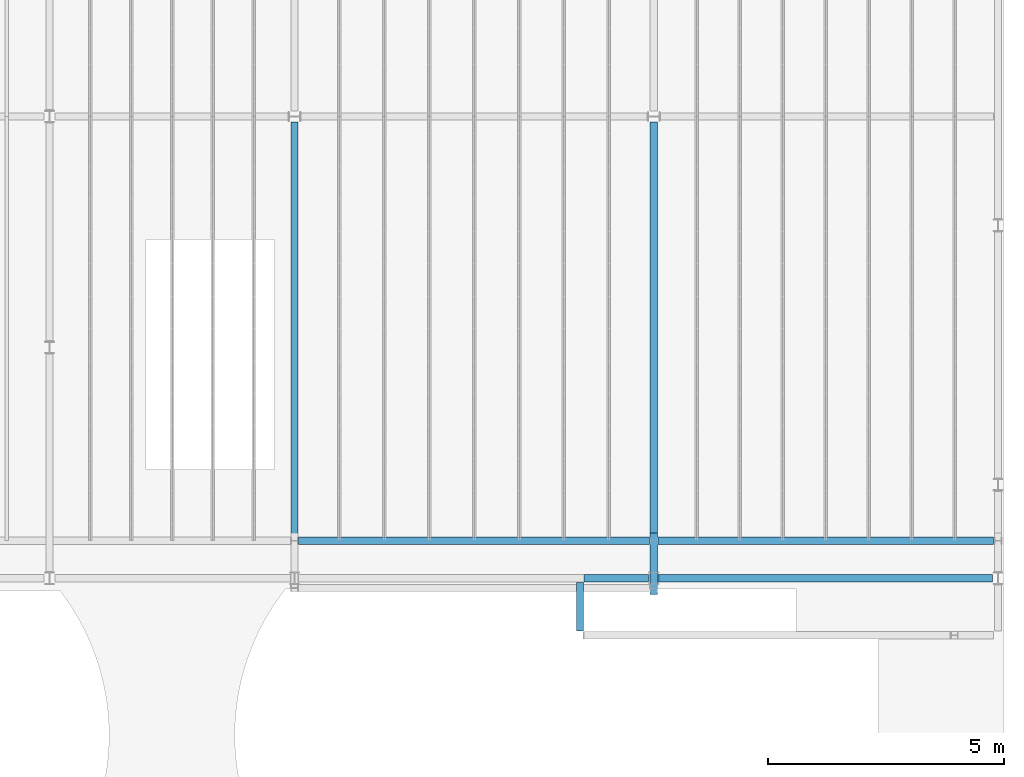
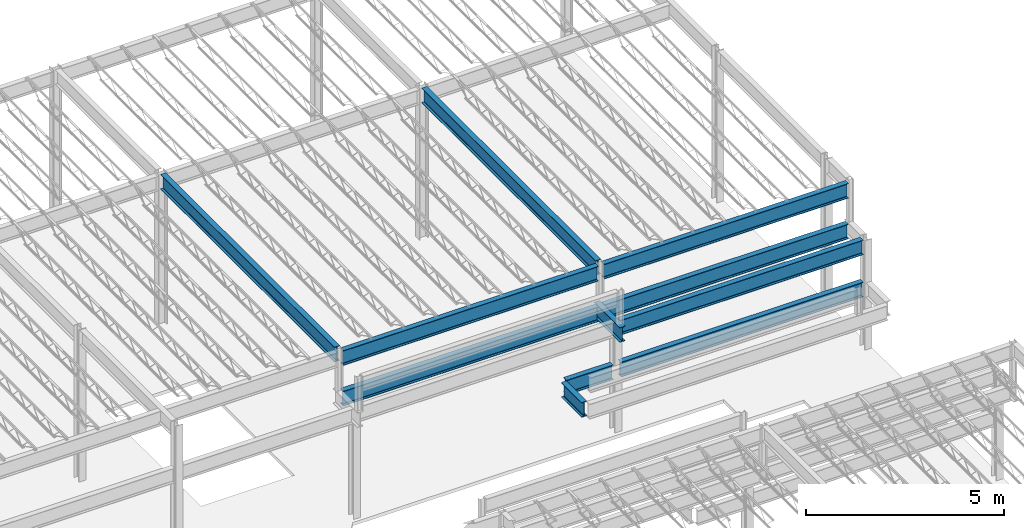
# One storey, part 15 of 119: 11 beams.
"""IFC2X3 building model written with IfcOpenShell, lengths in metres."""

import ifcopenshell
import ifcopenshell.guid

model = None  # the IFC model being written
_history = None  # IfcOwnerHistory: only IFC2X3 demands one
_inside = {}  # id of a spatial element -> (the spatial element, [elements in it])
_under = {}  # id of a project, library or spatial element -> (it, [spatial elements below it])
_declared = {}  # id of a project -> (the project, [libraries it declares])
_typed = {}  # id of a type object -> (the type object, [elements of that type])
_made_of = {}  # id of a material, layer set ... -> (it, [elements and type objects made of it])


def new_model(schema):
    """Start an empty IFC model of exactly this schema.

    Asked for "IFC4X3", IfcOpenShell would pick the latest addendum, in which some entities
    have other attributes; the version numbers below select the first issue.
    IFC2X3 requires an IfcOwnerHistory on every rooted entity: one is made here for all.
    """
    global model, _history
    if schema == "IFC4X3":
        model = ifcopenshell.file(schema_version=(4, 3, 0, 0))
    else:
        model = ifcopenshell.file(schema=schema)
    _inside.clear()
    _under.clear()
    _declared.clear()
    _typed.clear()
    _made_of.clear()
    _history = None
    if model.schema == "IFC2X3":
        org = make("IfcOrganization", Name="unknown")
        user = make(
            "IfcPersonAndOrganization",
            ThePerson=make("IfcPerson", FamilyName="unknown"),
            TheOrganization=org,
        )
        app = make(
            "IfcApplication",
            ApplicationDeveloper=org,
            Version="unknown",
            ApplicationFullName="unknown",
            ApplicationIdentifier="unknown",
        )
        _history = make(
            "IfcOwnerHistory",
            OwningUser=user,
            OwningApplication=app,
            ChangeAction="ADDED",
            CreationDate=0,
        )
    return model


def make(cls, **values):
    """One entity of the class cls with the attributes given. An attribute that is None is left unset."""
    return model.create_entity(
        cls, **{name: value for name, value in values.items() if value is not None}
    )


def entity(cls, *values):
    """Any entity or typed value of the class cls, its attributes in the order of the schema. None: left unset."""
    e = model.create_entity(cls)
    for i, value in enumerate(values):
        if value is not None:
            e[i] = value
    return e


def rooted(cls, **values):
    """An entity with a GlobalId (a new one), such as an element, a storey or a relation."""
    return make(cls, GlobalId=ifcopenshell.guid.new(), OwnerHistory=_history, **values)


def si_unit(unit_type, name, prefix=None):
    """IfcSIUnit, for example si_unit("LENGTHUNIT", "METRE", prefix="MILLI")."""
    return make("IfcSIUnit", UnitType=unit_type, Prefix=prefix, Name=name)


def converted_unit(unit_type, name, factor, base, dimensions=None, offset=None):
    """IfcConversionBasedUnit, such as the inch: factor (a typed value) times the base unit."""
    return make(
        "IfcConversionBasedUnit"
        if offset is None
        else "IfcConversionBasedUnitWithOffset",
        ConversionOffset=offset,
        Dimensions=None
        if dimensions is None
        else entity("IfcDimensionalExponents", *dimensions),
        UnitType=unit_type,
        Name=name,
        ConversionFactor=make(
            "IfcMeasureWithUnit", ValueComponent=factor, UnitComponent=base
        ),
    )


def assignment(units):
    """IfcUnitAssignment: the units of a project."""
    return None if units is None else make("IfcUnitAssignment", Units=units)


def point(xyz):
    """IfcCartesianPoint."""
    return None if xyz is None else make("IfcCartesianPoint", Coordinates=xyz)


def direction(xyz):
    """IfcDirection."""
    return None if xyz is None else make("IfcDirection", DirectionRatios=xyz)


def frame(location, z_axis=None, x_axis=None):
    """IfcAxis2Placement3D, a coordinate frame: its origin and axes. An axis left out is left unset."""
    return make(
        "IfcAxis2Placement3D",
        Location=point(location),
        Axis=direction(z_axis),
        RefDirection=direction(x_axis),
    )


def frame_2d(location, x_axis=None):
    """IfcAxis2Placement2D, a coordinate frame in the plane: its origin and x axis."""
    return make(
        "IfcAxis2Placement2D", Location=point(location), RefDirection=direction(x_axis)
    )


def origin():
    """The frame at (0, 0, 0) with its axes left unset."""
    return frame((0.0, 0.0, 0.0))


def place(relative_to, where):
    """IfcLocalPlacement: puts the frame where relative to a parent placement (None: the world)."""
    return make(
        "IfcLocalPlacement", PlacementRelTo=relative_to, RelativePlacement=where
    )


def context(
    kind, dimensions, precision=None, world=None, true_north=None, identifier=None
):
    """IfcGeometricRepresentationContext, for example the 3D "Model" context."""
    return make(
        "IfcGeometricRepresentationContext",
        ContextIdentifier=identifier,
        ContextType=kind,
        CoordinateSpaceDimension=dimensions,
        Precision=precision,
        WorldCoordinateSystem=world,
        TrueNorth=true_north,
    )


def project(units=None, contexts=None):
    """IfcProject with its units and contexts."""
    return rooted(
        "IfcProject",
        Name="project",
        RepresentationContexts=contexts,
        UnitsInContext=assignment(units),
    )


def spatial(cls, under=None, at=None, **own):
    """A site, building, storey or space (cls), placed at a placement, below another one or the project."""
    s = rooted(cls, ObjectPlacement=at, **own)
    if under is not None:
        _under.setdefault(under.id(), (under, []))[1].append(s)
    return s


def polyline(points):
    """IfcPolyline through the points."""
    return make("IfcPolyline", Points=[point(p) for p in points])


def circle_curve(where, radius):
    """IfcCircle in the frame where."""
    return make("IfcCircle", Position=where, Radius=radius)


def parameter(value):
    """IfcParameterValue: where a trimmed curve begins or ends, as a parameter of its basis curve."""
    return model.create_entity("IfcParameterValue", value)


def trimmed(basis, trim1, trim2, sense, master):
    """IfcTrimmedCurve: the piece of a basis curve between two trims."""
    return make(
        "IfcTrimmedCurve",
        BasisCurve=basis,
        Trim1=trim1,
        Trim2=trim2,
        SenseAgreement=sense,
        MasterRepresentation=master,
    )


def segment(curve, same_sense, transition):
    """IfcCompositeCurveSegment."""
    return make(
        "IfcCompositeCurveSegment",
        Transition=transition,
        SameSense=same_sense,
        ParentCurve=curve,
    )


def composite_curve(segments, self_intersect=None):
    """IfcCompositeCurve: segments joined end to end."""
    return make("IfcCompositeCurve", Segments=segments, SelfIntersect=self_intersect)


def outline(outer, holes=None, kind="AREA"):
    """IfcArbitraryClosedProfileDef: a profile drawn as a closed curve; with holes, ...WithVoids."""
    if holes is None:
        return make("IfcArbitraryClosedProfileDef", ProfileType=kind, OuterCurve=outer)
    return make(
        "IfcArbitraryProfileDefWithVoids",
        ProfileType=kind,
        OuterCurve=outer,
        InnerCurves=holes,
    )


def extrude(swept, where, along, depth):
    """IfcExtrudedAreaSolid: the profile swept, set in the frame where, extruded along a direction by depth."""
    return make(
        "IfcExtrudedAreaSolid",
        SweptArea=swept,
        Position=where,
        ExtrudedDirection=direction(along),
        Depth=depth,
    )


def shape(context_of_items, identifier, shape_type, items):
    """IfcShapeRepresentation: the items that make up one representation, for example the "Body"."""
    return make(
        "IfcShapeRepresentation",
        ContextOfItems=context_of_items,
        RepresentationIdentifier=identifier,
        RepresentationType=shape_type,
        Items=items,
    )


def material(Name=None, Category=None):
    """IfcMaterial."""
    return make("IfcMaterial", Name=Name, Category=Category)


def made_of(thing, what):
    """Note that an element or type object is made of a material, layer set ...; save() writes the relation."""
    if what is not None:
        _made_of.setdefault(what.id(), (what, []))[1].append(thing)
    return thing


def element(
    cls,
    number,
    at=None,
    inside=None,
    cuts=None,
    type_object=None,
    material=None,
    context=None,
    identifier="Body",
    shape_type=None,
    held_by="IfcProductDefinitionShape",
    body=None,
    shapes=None,
    **own,
):
    """One element of the class cls, such as IfcWall. Its Tag is "e" and its number.

    at: its placement. inside: the storey or other place that contains it. cuts: it is an
    opening in that element (IfcRelVoidsElement). A single representation is given by context,
    identifier, shape_type and body (its items); several are given by shapes. held_by: the class
    of the entity that holds the representations. save() writes the other relations.
    """
    e = rooted(cls, Tag="e%d" % number, ObjectPlacement=at, **own)
    if body is not None:
        shapes = [shape(context, identifier, shape_type, body)]
    if shapes is not None:
        e.Representation = make(held_by, Representations=shapes)
    if inside is not None:
        _inside.setdefault(inside.id(), (inside, []))[1].append(e)
    if cuts is not None:
        rooted(
            "IfcRelVoidsElement", RelatingBuildingElement=cuts, RelatedOpeningElement=e
        )
    if type_object is not None:
        _typed.setdefault(type_object.id(), (type_object, []))[1].append(e)
    return made_of(e, material)


def aggregate(whole, parts):
    """IfcRelAggregates: a whole, such as a stair, and the parts it consists of."""
    return rooted("IfcRelAggregates", RelatingObject=whole, RelatedObjects=parts)


def save(model, path):
    """Write the relations noted so far, then the file.

    IfcRelAggregates (storeys below a building ...), IfcRelContainedInSpatialStructure (elements
    in a storey), IfcRelDefinesByType, IfcRelAssociatesMaterial and IfcRelDeclares: one each for
    every whole, place, type object, material and project.
    """
    for whole, parts in _under.values():
        aggregate(whole, parts)
    for where, things in _inside.values():
        rooted(
            "IfcRelContainedInSpatialStructure",
            RelatedElements=things,
            RelatingStructure=where,
        )
    for kind, things in _typed.values():
        rooted("IfcRelDefinesByType", RelatedObjects=things, RelatingType=kind)
    for what, things in _made_of.values():
        rooted("IfcRelAssociatesMaterial", RelatedObjects=things, RelatingMaterial=what)
    for by, libraries in _declared.values():
        rooted("IfcRelDeclares", RelatingContext=by, RelatedDefinitions=libraries)
    model.write(path)


model = new_model("IFC2X3")

# Units and contexts
model_context = context("Model", 3, precision=1e-09, world=origin())
plan_context = context("Plan", 3, precision=1e-09, world=origin())
ifc_project = project(units=[si_unit("LENGTHUNIT", "METRE"), si_unit("AREAUNIT", "SQUARE_METRE"), si_unit("VOLUMEUNIT", "CUBIC_METRE"), converted_unit("PLANEANGLEUNIT", "DEGREE", entity("IfcRatioMeasure", 0.01745329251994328), si_unit("PLANEANGLEUNIT", "RADIAN"), dimensions=[0, 0, 0, 0, 0, 0, 0]), si_unit("TIMEUNIT", "SECOND")], contexts=[model_context, plan_context])

# Site, building, storey
site_placement = place(None, origin())
site = spatial("IfcSite", under=ifc_project, at=site_placement, Name="Default", CompositionType="ELEMENT")
building_placement = place(site_placement, origin())
building = spatial("IfcBuilding", under=site, at=building_placement, CompositionType="ELEMENT")
storey_placement = place(building_placement, frame((0.0, 0.0, 4.570000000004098)))
storey = spatial("IfcBuildingStorey", under=building, at=storey_placement, Name="Second Floor", CompositionType="ELEMENT", Elevation=4.570000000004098)

# Beams
ifc_material = material(Name="Metal - Steel - 345 MPa")
beam_1_placement = place(storey_placement, frame((-7.272954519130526, 35.00999999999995, 2.071499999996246), z_axis=(0.0, 0.0, 1.0), x_axis=(0.0, -1.0, 0.0)))
element("IfcBeam", 1, at=beam_1_placement, inside=storey, material=ifc_material, Name="M_W-Wide Flange:W460X60:W460X60", ObjectType="M_W-Wide Flange:W460X60", context=model_context, shape_type="SweptSolid", body=[
    extrude(outline(composite_curve([segment(polyline([(-0.07649999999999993, -0.214199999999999), (-0.07649999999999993, -0.2275000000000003)]), True, "CONTINUOUS"), segment(polyline([(-0.07649999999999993, -0.2275000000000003), (0.07649999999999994, -0.2275000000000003)]), True, "CONTINUOUS"), segment(polyline([(0.07649999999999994, -0.2275000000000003), (0.07649999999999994, -0.214199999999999)]), True, "CONTINUOUS"), segment(polyline([(0.07649999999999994, -0.214199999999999), (0.0216999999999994, -0.214199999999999)]), True, "CONTINUOUS"), segment(trimmed(circle_curve(frame_2d((0.02169999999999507, -0.1964999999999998), x_axis=(1.0, 0.0)), 0.0177), [parameter(180.0)], [parameter(269.9999999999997)], True, "PARAMETER"), False, "CONTINUOUS"), segment(polyline([(0.00399999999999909, -0.1964999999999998), (0.00399999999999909, 0.1965000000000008)]), True, "CONTINUOUS"), segment(trimmed(circle_curve(frame_2d((0.02169999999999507, 0.1965000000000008), x_axis=(1.0, 0.0)), 0.0177), [parameter(90.00000000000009)], [parameter(179.9999999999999)], True, "PARAMETER"), False, "CONTINUOUS"), segment(polyline([(0.0216999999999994, 0.2142000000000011), (0.07649999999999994, 0.2142000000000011)]), True, "CONTINUOUS"), segment(polyline([(0.07649999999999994, 0.2142000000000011), (0.07649999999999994, 0.2275000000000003)]), True, "CONTINUOUS"), segment(polyline([(0.07649999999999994, 0.2275000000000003), (-0.07649999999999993, 0.2275000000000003)]), True, "CONTINUOUS"), segment(polyline([(-0.07649999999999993, 0.2275000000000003), (-0.07649999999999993, 0.2142000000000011)]), True, "CONTINUOUS"), segment(polyline([(-0.07649999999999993, 0.2142000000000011), (-0.0216999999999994, 0.2142000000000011)]), True, "CONTINUOUS"), segment(trimmed(circle_curve(frame_2d((-0.02170000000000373, 0.1965000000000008), x_axis=(1.0, 0.0)), 0.0177), [parameter(359.9999999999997)], [parameter(89.99999999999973)], True, "PARAMETER"), False, "CONTINUOUS"), segment(polyline([(-0.003999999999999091, 0.1965000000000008), (-0.003999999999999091, -0.1964999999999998)]), True, "CONTINUOUS"), segment(trimmed(circle_curve(frame_2d((-0.02170000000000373, -0.1964999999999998), x_axis=(1.0, 0.0)), 0.0177), [parameter(269.9999999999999)], [parameter(0.0)], True, "PARAMETER"), False, "CONTINUOUS"), segment(polyline([(-0.0216999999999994, -0.214199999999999), (-0.07649999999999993, -0.214199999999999)]), True, "CONTINUOUS")], self_intersect=False)), frame((0.0, 0.1076545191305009, -0.2275000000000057), z_axis=(0.0, -1.0, 0.0), x_axis=(1.0, 0.0, 0.0)), (0.0, 0.0, -1.0), 7.050599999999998),
])
beam_2_placement = place(storey_placement, frame((-8.840191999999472, 35.9378395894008, 2.0715)))
element("IfcBeam", 2, at=beam_2_placement, inside=storey, material=ifc_material, Name="M_W-Wide Flange:W460X60:W460X60", ObjectType="M_W-Wide Flange:W460X60", context=model_context, shape_type="SweptSolid", body=[
    extrude(outline(composite_curve([segment(polyline([(0.214199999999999, -0.07649999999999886), (0.2275000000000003, -0.07649999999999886)]), True, "CONTINUOUS"), segment(polyline([(0.2275000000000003, -0.07649999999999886), (0.2275000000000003, 0.0765000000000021)]), True, "CONTINUOUS"), segment(polyline([(0.2275000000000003, 0.0765000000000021), (0.214199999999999, 0.0765000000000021)]), True, "CONTINUOUS"), segment(polyline([(0.214199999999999, 0.0765000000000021), (0.214199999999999, 0.02170000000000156)]), True, "CONTINUOUS"), segment(trimmed(circle_curve(frame_2d((0.1964999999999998, 0.02170000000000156), x_axis=(0.0, 1.0)), 0.0177), [parameter(180.0)], [parameter(269.9999999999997)], True, "PARAMETER"), False, "CONTINUOUS"), segment(polyline([(0.1964999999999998, 0.004000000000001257), (-0.1965000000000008, 0.004000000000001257)]), True, "CONTINUOUS"), segment(trimmed(circle_curve(frame_2d((-0.1965000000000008, 0.02170000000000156), x_axis=(0.0, 1.0)), 0.0177), [parameter(90.00000000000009)], [parameter(179.9999999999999)], True, "PARAMETER"), False, "CONTINUOUS"), segment(polyline([(-0.2142000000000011, 0.02170000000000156), (-0.2142000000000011, 0.0765000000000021)]), True, "CONTINUOUS"), segment(polyline([(-0.2142000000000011, 0.0765000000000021), (-0.2275000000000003, 0.0765000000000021)]), True, "CONTINUOUS"), segment(polyline([(-0.2275000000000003, 0.0765000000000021), (-0.2275000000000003, -0.07649999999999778)]), True, "CONTINUOUS"), segment(polyline([(-0.2275000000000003, -0.07649999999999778), (-0.2142000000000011, -0.07649999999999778)]), True, "CONTINUOUS"), segment(polyline([(-0.2142000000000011, -0.07649999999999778), (-0.2142000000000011, -0.02169999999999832)]), True, "CONTINUOUS"), segment(trimmed(circle_curve(frame_2d((-0.1965000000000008, -0.02169999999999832), x_axis=(0.0, 1.0)), 0.0177), [parameter(359.9999999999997)], [parameter(89.99999999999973)], True, "PARAMETER"), False, "CONTINUOUS"), segment(polyline([(-0.1965000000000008, -0.003999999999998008), (0.1964999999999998, -0.003999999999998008)]), True, "CONTINUOUS"), segment(trimmed(circle_curve(frame_2d((0.1964999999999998, -0.02169999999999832), x_axis=(0.0, 1.0)), 0.0177), [parameter(269.9999999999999)], [parameter(0.0)], True, "PARAMETER"), False, "CONTINUOUS"), segment(polyline([(0.214199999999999, -0.02169999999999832), (0.214199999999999, -0.07649999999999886)]), True, "CONTINUOUS")], self_intersect=False)), frame((0.0, -2.044140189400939, -0.2275000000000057), z_axis=(0.0, 1.0, 0.0), x_axis=(0.0, 0.0, -1.0)), (0.0, 0.0, 1.0), 1.0276005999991),
])
beam_3_placement = place(storey_placement, frame((-14.87997499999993, 44.77806591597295, 4.679999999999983), z_axis=(0.0, 0.0, 1.0), x_axis=(-1.0, 0.0, 0.0)))
element("IfcBeam", 3, at=beam_3_placement, inside=storey, material=ifc_material, Name="M_W-Wide Flange:W460X60:W460X60", ObjectType="M_W-Wide Flange:W460X60", context=model_context, shape_type="SweptSolid", body=[
    extrude(outline(composite_curve([segment(polyline([(0.2142000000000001, -0.07649999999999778), (0.2275000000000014, -0.07649999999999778)]), True, "CONTINUOUS"), segment(polyline([(0.2275000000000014, -0.07649999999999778), (0.2275000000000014, 0.0765000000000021)]), True, "CONTINUOUS"), segment(polyline([(0.2275000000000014, 0.0765000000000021), (0.2142000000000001, 0.0765000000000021)]), True, "CONTINUOUS"), segment(polyline([(0.2142000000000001, 0.0765000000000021), (0.2142000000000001, 0.02170000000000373)]), True, "CONTINUOUS"), segment(trimmed(circle_curve(frame_2d((0.1965000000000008, 0.02170000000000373), x_axis=(0.0, 1.0)), 0.0177), [parameter(180.0)], [parameter(269.9999999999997)], True, "PARAMETER"), False, "CONTINUOUS"), segment(polyline([(0.1965000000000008, 0.004000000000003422), (-0.1964999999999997, 0.004000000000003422)]), True, "CONTINUOUS"), segment(trimmed(circle_curve(frame_2d((-0.1964999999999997, 0.02170000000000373), x_axis=(0.0, 1.0)), 0.0177), [parameter(90.00000000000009)], [parameter(179.9999999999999)], True, "PARAMETER"), False, "CONTINUOUS"), segment(polyline([(-0.2142, 0.02170000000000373), (-0.2142, 0.0765000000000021)]), True, "CONTINUOUS"), segment(polyline([(-0.2142, 0.0765000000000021), (-0.2274999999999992, 0.0765000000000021)]), True, "CONTINUOUS"), segment(polyline([(-0.2274999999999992, 0.0765000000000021), (-0.2274999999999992, -0.07649999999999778)]), True, "CONTINUOUS"), segment(polyline([(-0.2274999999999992, -0.07649999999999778), (-0.2142, -0.07649999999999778)]), True, "CONTINUOUS"), segment(polyline([(-0.2142, -0.07649999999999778), (-0.2142, -0.02169999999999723)]), True, "CONTINUOUS"), segment(trimmed(circle_curve(frame_2d((-0.1964999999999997, -0.02169999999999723), x_axis=(0.0, 1.0)), 0.0177), [parameter(359.9999999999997)], [parameter(89.99999999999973)], True, "PARAMETER"), False, "CONTINUOUS"), segment(polyline([(-0.1964999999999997, -0.003999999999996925), (0.1965000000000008, -0.003999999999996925)]), True, "CONTINUOUS"), segment(trimmed(circle_curve(frame_2d((0.1965000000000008, -0.02169999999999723), x_axis=(0.0, 1.0)), 0.0177), [parameter(269.9999999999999)], [parameter(0.0)], True, "PARAMETER"), False, "CONTINUOUS"), segment(polyline([(0.2142000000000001, -0.02169999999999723), (0.2142000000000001, -0.07649999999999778)]), True, "CONTINUOUS")], self_intersect=False)), frame((0.0, 8.884365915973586, -0.2275000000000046), z_axis=(0.0, -1.0, 0.0), x_axis=(0.0, 0.0, -1.0)), (0.0, 0.0, 1.0), 8.771600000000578),
])
beam_4_placement = place(storey_placement, frame((-7.280000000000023, 35.01193408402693, 4.680000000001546)))
element("IfcBeam", 4, at=beam_4_placement, inside=storey, material=ifc_material, Name="M_W-Wide Flange:W460X60:W460X60", ObjectType="M_W-Wide Flange:W460X60", context=model_context, shape_type="SweptSolid", body=[
    extrude(outline(composite_curve([segment(polyline([(-0.07649999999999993, -0.214199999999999), (-0.07649999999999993, -0.2275000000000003)]), True, "CONTINUOUS"), segment(polyline([(-0.07649999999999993, -0.2275000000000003), (0.07650000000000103, -0.2275000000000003)]), True, "CONTINUOUS"), segment(polyline([(0.07650000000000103, -0.2275000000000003), (0.07650000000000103, -0.214199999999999)]), True, "CONTINUOUS"), segment(polyline([(0.07650000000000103, -0.214199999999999), (0.02170000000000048, -0.214199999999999)]), True, "CONTINUOUS"), segment(trimmed(circle_curve(frame_2d((0.0216999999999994, -0.1964999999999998), x_axis=(1.0, 0.0)), 0.0177), [parameter(180.0)], [parameter(269.9999999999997)], True, "PARAMETER"), False, "CONTINUOUS"), segment(polyline([(0.004000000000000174, -0.1964999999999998), (0.004000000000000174, 0.1965000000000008)]), True, "CONTINUOUS"), segment(trimmed(circle_curve(frame_2d((0.0216999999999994, 0.1965000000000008), x_axis=(1.0, 0.0)), 0.0177), [parameter(90.00000000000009)], [parameter(179.9999999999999)], True, "PARAMETER"), False, "CONTINUOUS"), segment(polyline([(0.02170000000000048, 0.2142000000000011), (0.07650000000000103, 0.2142000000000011)]), True, "CONTINUOUS"), segment(polyline([(0.07650000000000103, 0.2142000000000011), (0.07650000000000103, 0.2275000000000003)]), True, "CONTINUOUS"), segment(polyline([(0.07650000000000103, 0.2275000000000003), (-0.07649999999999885, 0.2275000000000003)]), True, "CONTINUOUS"), segment(polyline([(-0.07649999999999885, 0.2275000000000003), (-0.07649999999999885, 0.2142000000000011)]), True, "CONTINUOUS"), segment(polyline([(-0.07649999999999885, 0.2142000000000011), (-0.0216999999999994, 0.2142000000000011)]), True, "CONTINUOUS"), segment(trimmed(circle_curve(frame_2d((-0.02170000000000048, 0.1965000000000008), x_axis=(1.0, 0.0)), 0.0177), [parameter(359.9999999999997)], [parameter(89.99999999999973)], True, "PARAMETER"), False, "CONTINUOUS"), segment(polyline([(-0.00399999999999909, 0.1965000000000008), (-0.00399999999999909, -0.1964999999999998)]), True, "CONTINUOUS"), segment(trimmed(circle_curve(frame_2d((-0.02170000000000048, -0.1964999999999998), x_axis=(1.0, 0.0)), 0.0177), [parameter(269.9999999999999)], [parameter(0.0)], True, "PARAMETER"), False, "CONTINUOUS"), segment(polyline([(-0.0216999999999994, -0.214199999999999), (-0.07649999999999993, -0.214199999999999)]), True, "CONTINUOUS")], self_intersect=False)), frame((0.0, 0.8817659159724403, -0.2275000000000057), z_axis=(0.0, -1.0, 0.0), x_axis=(1.0, 0.0, 0.0)), (0.0, 0.0, -1.0), 8.771600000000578),
])
beam_5_placement = place(storey_placement, frame((-7.277404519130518, 35.8049999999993, 3.366499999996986), z_axis=(0.0, 0.0, 1.0), x_axis=(0.0, -1.0, 0.0)))
element("IfcBeam", 5, at=beam_5_placement, inside=storey, material=ifc_material, Name="M_W-Wide Flange:W460X60:W460X60", ObjectType="M_W-Wide Flange:W460X60", context=model_context, shape_type="SweptSolid", body=[
    extrude(outline(composite_curve([segment(polyline([(-0.07650000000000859, -0.2142000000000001), (-0.07650000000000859, -0.2275000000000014)]), True, "CONTINUOUS"), segment(polyline([(-0.07650000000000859, -0.2275000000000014), (0.07649999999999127, -0.2275000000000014)]), True, "CONTINUOUS"), segment(polyline([(0.07649999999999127, -0.2275000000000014), (0.07649999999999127, -0.2142000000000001)]), True, "CONTINUOUS"), segment(polyline([(0.07649999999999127, -0.2142000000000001), (0.02169999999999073, -0.2142000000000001)]), True, "CONTINUOUS"), segment(trimmed(circle_curve(frame_2d((0.02169999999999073, -0.1965000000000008), x_axis=(1.0, 0.0)), 0.0177), [parameter(180.0)], [parameter(269.9999999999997)], True, "PARAMETER"), False, "CONTINUOUS"), segment(polyline([(0.003999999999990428, -0.1965000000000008), (0.003999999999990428, 0.1964999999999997)]), True, "CONTINUOUS"), segment(trimmed(circle_curve(frame_2d((0.02169999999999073, 0.1964999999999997), x_axis=(1.0, 0.0)), 0.0177), [parameter(90.00000000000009)], [parameter(179.9999999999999)], True, "PARAMETER"), False, "CONTINUOUS"), segment(polyline([(0.02169999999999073, 0.2142), (0.07649999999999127, 0.2142)]), True, "CONTINUOUS"), segment(polyline([(0.07649999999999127, 0.2142), (0.07649999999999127, 0.2274999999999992)]), True, "CONTINUOUS"), segment(polyline([(0.07649999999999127, 0.2274999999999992), (-0.07650000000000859, 0.2274999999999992)]), True, "CONTINUOUS"), segment(polyline([(-0.07650000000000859, 0.2274999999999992), (-0.07650000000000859, 0.2142)]), True, "CONTINUOUS"), segment(polyline([(-0.07650000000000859, 0.2142), (-0.02170000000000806, 0.2142)]), True, "CONTINUOUS"), segment(trimmed(circle_curve(frame_2d((-0.02170000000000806, 0.1964999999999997), x_axis=(1.0, 0.0)), 0.0177), [parameter(359.9999999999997)], [parameter(89.99999999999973)], True, "PARAMETER"), False, "CONTINUOUS"), segment(polyline([(-0.004000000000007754, 0.1964999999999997), (-0.004000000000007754, -0.1965000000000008)]), True, "CONTINUOUS"), segment(trimmed(circle_curve(frame_2d((-0.02170000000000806, -0.1965000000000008), x_axis=(1.0, 0.0)), 0.0177), [parameter(269.9999999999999)], [parameter(0.0)], True, "PARAMETER"), False, "CONTINUOUS"), segment(polyline([(-0.02170000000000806, -0.2142000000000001), (-0.07650000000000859, -0.2142000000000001)]), True, "CONTINUOUS")], self_intersect=False)), frame((0.0, -7.513360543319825, -0.2275000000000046), z_axis=(0.0, -1.0, 0.0), x_axis=(1.0, 0.0, 0.0)), (0.0, 0.0, -1.0), 7.42206506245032),
])
beam_6_placement = place(storey_placement, frame((-7.277337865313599, 35.80499999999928, 4.616499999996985), z_axis=(0.0, 0.0, 1.0), x_axis=(0.0, -1.0, 0.0)))
element("IfcBeam", 6, at=beam_6_placement, inside=storey, material=ifc_material, Name="M_W-Wide Flange:W460X60:W460X60", ObjectType="M_W-Wide Flange:W460X60", context=model_context, shape_type="SweptSolid", body=[
    extrude(outline(composite_curve([segment(polyline([(-0.07649999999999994, -0.2142000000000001), (-0.07649999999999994, -0.2275000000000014)]), True, "CONTINUOUS"), segment(polyline([(-0.07649999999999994, -0.2275000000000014), (0.07649999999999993, -0.2275000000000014)]), True, "CONTINUOUS"), segment(polyline([(0.07649999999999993, -0.2275000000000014), (0.07649999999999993, -0.2142000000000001)]), True, "CONTINUOUS"), segment(polyline([(0.07649999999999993, -0.2142000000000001), (0.0216999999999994, -0.2142000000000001)]), True, "CONTINUOUS"), segment(trimmed(circle_curve(frame_2d((0.02170000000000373, -0.1965000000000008), x_axis=(1.0, 0.0)), 0.0177), [parameter(180.0)], [parameter(269.9999999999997)], True, "PARAMETER"), False, "CONTINUOUS"), segment(polyline([(0.003999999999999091, -0.1965000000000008), (0.003999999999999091, 0.1964999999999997)]), True, "CONTINUOUS"), segment(trimmed(circle_curve(frame_2d((0.02170000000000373, 0.1964999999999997), x_axis=(1.0, 0.0)), 0.0177), [parameter(90.00000000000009)], [parameter(179.9999999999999)], True, "PARAMETER"), False, "CONTINUOUS"), segment(polyline([(0.0216999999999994, 0.2142), (0.07649999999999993, 0.2142)]), True, "CONTINUOUS"), segment(polyline([(0.07649999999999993, 0.2142), (0.07649999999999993, 0.2274999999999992)]), True, "CONTINUOUS"), segment(polyline([(0.07649999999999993, 0.2274999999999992), (-0.07649999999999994, 0.2274999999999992)]), True, "CONTINUOUS"), segment(polyline([(-0.07649999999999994, 0.2274999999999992), (-0.07649999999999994, 0.2142)]), True, "CONTINUOUS"), segment(polyline([(-0.07649999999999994, 0.2142), (-0.0216999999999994, 0.2142)]), True, "CONTINUOUS"), segment(trimmed(circle_curve(frame_2d((-0.02169999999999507, 0.1964999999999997), x_axis=(1.0, 0.0)), 0.0177), [parameter(359.9999999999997)], [parameter(89.99999999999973)], True, "PARAMETER"), False, "CONTINUOUS"), segment(polyline([(-0.00399999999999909, 0.1964999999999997), (-0.00399999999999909, -0.1965000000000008)]), True, "CONTINUOUS"), segment(trimmed(circle_curve(frame_2d((-0.02169999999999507, -0.1965000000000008), x_axis=(1.0, 0.0)), 0.0177), [parameter(269.9999999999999)], [parameter(0.0)], True, "PARAMETER"), False, "CONTINUOUS"), segment(polyline([(-0.0216999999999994, -0.2142000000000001), (-0.07649999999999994, -0.2142000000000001)]), True, "CONTINUOUS")], self_intersect=False)), frame((0.0, -7.513937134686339, -0.2275000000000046), z_axis=(0.0, -1.0, 0.0), x_axis=(1.0, 0.0, 0.0)), (0.0, 0.0, -1.0), 7.422574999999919),
])
beam_7_placement = place(storey_placement, frame((-7.277404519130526, 35.00999999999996, 3.366499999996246), z_axis=(0.0, 0.0, 1.0), x_axis=(0.0, -1.0, 0.0)))
element("IfcBeam", 7, at=beam_7_placement, inside=storey, material=ifc_material, Name="M_W-Wide Flange:W460X60:W460X60", ObjectType="M_W-Wide Flange:W460X60", context=model_context, shape_type="SweptSolid", body=[
    extrude(outline(composite_curve([segment(polyline([(-0.07649999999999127, -0.2142000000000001), (-0.07649999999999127, -0.2275000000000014)]), True, "CONTINUOUS"), segment(polyline([(-0.07649999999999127, -0.2275000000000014), (0.07650000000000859, -0.2275000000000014)]), True, "CONTINUOUS"), segment(polyline([(0.07650000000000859, -0.2275000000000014), (0.07650000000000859, -0.2142000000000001)]), True, "CONTINUOUS"), segment(polyline([(0.07650000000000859, -0.2142000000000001), (0.02170000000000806, -0.2142000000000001)]), True, "CONTINUOUS"), segment(trimmed(circle_curve(frame_2d((0.02170000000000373, -0.1965000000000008), x_axis=(1.0, 0.0)), 0.0177), [parameter(180.0)], [parameter(269.9999999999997)], True, "PARAMETER"), False, "CONTINUOUS"), segment(polyline([(0.004000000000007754, -0.1965000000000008), (0.004000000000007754, 0.1964999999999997)]), True, "CONTINUOUS"), segment(trimmed(circle_curve(frame_2d((0.02170000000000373, 0.1964999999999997), x_axis=(1.0, 0.0)), 0.0177), [parameter(90.00000000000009)], [parameter(179.9999999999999)], True, "PARAMETER"), False, "CONTINUOUS"), segment(polyline([(0.02170000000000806, 0.2142), (0.07650000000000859, 0.2142)]), True, "CONTINUOUS"), segment(polyline([(0.07650000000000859, 0.2142), (0.07650000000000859, 0.2274999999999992)]), True, "CONTINUOUS"), segment(polyline([(0.07650000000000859, 0.2274999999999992), (-0.07649999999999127, 0.2274999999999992)]), True, "CONTINUOUS"), segment(polyline([(-0.07649999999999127, 0.2274999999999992), (-0.07649999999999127, 0.2142)]), True, "CONTINUOUS"), segment(polyline([(-0.07649999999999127, 0.2142), (-0.02169999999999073, 0.2142)]), True, "CONTINUOUS"), segment(trimmed(circle_curve(frame_2d((-0.02169999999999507, 0.1964999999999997), x_axis=(1.0, 0.0)), 0.0177), [parameter(359.9999999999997)], [parameter(89.99999999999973)], True, "PARAMETER"), False, "CONTINUOUS"), segment(polyline([(-0.003999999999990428, 0.1964999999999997), (-0.003999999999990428, -0.1965000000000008)]), True, "CONTINUOUS"), segment(trimmed(circle_curve(frame_2d((-0.02169999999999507, -0.1965000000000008), x_axis=(1.0, 0.0)), 0.0177), [parameter(269.9999999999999)], [parameter(0.0)], True, "PARAMETER"), False, "CONTINUOUS"), segment(polyline([(-0.02169999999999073, -0.2142000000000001), (-0.07649999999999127, -0.2142000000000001)]), True, "CONTINUOUS")], self_intersect=False)), frame((0.0, 0.08661445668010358, -0.2275000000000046), z_axis=(0.0, -1.0, 0.0), x_axis=(1.0, 0.0, 0.0)), (0.0, 0.0, -1.0), 7.076090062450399),
])
beam_8_placement = place(storey_placement, frame((-7.277404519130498, 35.80499999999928, 4.616499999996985), z_axis=(0.0, 0.0, 1.0), x_axis=(0.0, -1.0, 0.0)))
element("IfcBeam", 8, at=beam_8_placement, inside=storey, material=ifc_material, Name="M_W-Wide Flange:W460X60:W460X60", ObjectType="M_W-Wide Flange:W460X60", context=model_context, shape_type="SweptSolid", body=[
    extrude(outline(composite_curve([segment(polyline([(-0.0764999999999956, -0.2142000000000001), (-0.0764999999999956, -0.2275000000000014)]), True, "CONTINUOUS"), segment(polyline([(-0.0764999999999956, -0.2275000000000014), (0.07650000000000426, -0.2275000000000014)]), True, "CONTINUOUS"), segment(polyline([(0.07650000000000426, -0.2275000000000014), (0.07650000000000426, -0.2142000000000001)]), True, "CONTINUOUS"), segment(polyline([(0.07650000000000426, -0.2142000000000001), (0.02170000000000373, -0.2142000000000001)]), True, "CONTINUOUS"), segment(trimmed(circle_curve(frame_2d((0.02170000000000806, -0.1965000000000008), x_axis=(1.0, 0.0)), 0.0177), [parameter(180.0)], [parameter(269.9999999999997)], True, "PARAMETER"), False, "CONTINUOUS"), segment(polyline([(0.004000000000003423, -0.1965000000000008), (0.004000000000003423, 0.1964999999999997)]), True, "CONTINUOUS"), segment(trimmed(circle_curve(frame_2d((0.02170000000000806, 0.1964999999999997), x_axis=(1.0, 0.0)), 0.0177), [parameter(90.00000000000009)], [parameter(179.9999999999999)], True, "PARAMETER"), False, "CONTINUOUS"), segment(polyline([(0.02170000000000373, 0.2142), (0.07650000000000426, 0.2142)]), True, "CONTINUOUS"), segment(polyline([(0.07650000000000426, 0.2142), (0.07650000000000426, 0.2274999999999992)]), True, "CONTINUOUS"), segment(polyline([(0.07650000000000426, 0.2274999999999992), (-0.0764999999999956, 0.2274999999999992)]), True, "CONTINUOUS"), segment(polyline([(-0.0764999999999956, 0.2274999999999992), (-0.0764999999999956, 0.2142)]), True, "CONTINUOUS"), segment(polyline([(-0.0764999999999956, 0.2142), (-0.02169999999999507, 0.2142)]), True, "CONTINUOUS"), segment(trimmed(circle_curve(frame_2d((-0.02169999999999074, 0.1964999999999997), x_axis=(1.0, 0.0)), 0.0177), [parameter(359.9999999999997)], [parameter(89.99999999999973)], True, "PARAMETER"), False, "CONTINUOUS"), segment(polyline([(-0.00399999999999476, 0.1964999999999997), (-0.00399999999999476, -0.1965000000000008)]), True, "CONTINUOUS"), segment(trimmed(circle_curve(frame_2d((-0.02169999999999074, -0.1965000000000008), x_axis=(1.0, 0.0)), 0.0177), [parameter(269.9999999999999)], [parameter(0.0)], True, "PARAMETER"), False, "CONTINUOUS"), segment(polyline([(-0.02169999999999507, -0.2142000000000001), (-0.0764999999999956, -0.2142000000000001)]), True, "CONTINUOUS")], self_intersect=False)), frame((0.0, 0.08610451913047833, -0.2275000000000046), z_axis=(0.0, -1.0, 0.0), x_axis=(1.0, 0.0, 0.0)), (0.0, 0.0, -1.0), 7.102590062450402),
])
beam_9_placement = place(storey_placement, frame((-7.272954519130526, 35.00999999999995, 2.071499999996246), z_axis=(0.0, 0.0, 1.0), x_axis=(0.0, -1.0, 0.0)))
element("IfcBeam", 9, at=beam_9_placement, inside=storey, material=ifc_material, Name="M_W-Wide Flange:W460X60:W460X60", ObjectType="M_W-Wide Flange:W460X60", context=model_context, shape_type="SweptSolid", body=[
    extrude(outline(composite_curve([segment(polyline([(-0.07649999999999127, -0.214199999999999), (-0.07649999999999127, -0.2275000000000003)]), True, "CONTINUOUS"), segment(polyline([(-0.07649999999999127, -0.2275000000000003), (0.07650000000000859, -0.2275000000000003)]), True, "CONTINUOUS"), segment(polyline([(0.07650000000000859, -0.2275000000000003), (0.07650000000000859, -0.214199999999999)]), True, "CONTINUOUS"), segment(polyline([(0.07650000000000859, -0.214199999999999), (0.02170000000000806, -0.214199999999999)]), True, "CONTINUOUS"), segment(trimmed(circle_curve(frame_2d((0.02170000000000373, -0.1964999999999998), x_axis=(1.0, 0.0)), 0.0177), [parameter(180.0)], [parameter(269.9999999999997)], True, "PARAMETER"), False, "CONTINUOUS"), segment(polyline([(0.004000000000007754, -0.1964999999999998), (0.004000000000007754, 0.1965000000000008)]), True, "CONTINUOUS"), segment(trimmed(circle_curve(frame_2d((0.02170000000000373, 0.1965000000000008), x_axis=(1.0, 0.0)), 0.0177), [parameter(90.00000000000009)], [parameter(179.9999999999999)], True, "PARAMETER"), False, "CONTINUOUS"), segment(polyline([(0.02170000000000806, 0.2142000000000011), (0.07650000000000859, 0.2142000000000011)]), True, "CONTINUOUS"), segment(polyline([(0.07650000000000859, 0.2142000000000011), (0.07650000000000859, 0.2275000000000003)]), True, "CONTINUOUS"), segment(polyline([(0.07650000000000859, 0.2275000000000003), (-0.07649999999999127, 0.2275000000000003)]), True, "CONTINUOUS"), segment(polyline([(-0.07649999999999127, 0.2275000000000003), (-0.07649999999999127, 0.2142000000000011)]), True, "CONTINUOUS"), segment(polyline([(-0.07649999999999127, 0.2142000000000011), (-0.02169999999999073, 0.2142000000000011)]), True, "CONTINUOUS"), segment(trimmed(circle_curve(frame_2d((-0.02169999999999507, 0.1965000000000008), x_axis=(1.0, 0.0)), 0.0177), [parameter(359.9999999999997)], [parameter(89.99999999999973)], True, "PARAMETER"), False, "CONTINUOUS"), segment(polyline([(-0.003999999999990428, 0.1965000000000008), (-0.003999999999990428, -0.1964999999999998)]), True, "CONTINUOUS"), segment(trimmed(circle_curve(frame_2d((-0.02169999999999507, -0.1964999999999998), x_axis=(1.0, 0.0)), 0.0177), [parameter(269.9999999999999)], [parameter(0.0)], True, "PARAMETER"), False, "CONTINUOUS"), segment(polyline([(-0.02169999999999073, -0.214199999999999), (-0.07649999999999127, -0.214199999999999)]), True, "CONTINUOUS")], self_intersect=False)), frame((0.0, -1.478537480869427, -0.2275000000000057), z_axis=(0.0, -1.0, 0.0), x_axis=(1.0, 0.0, 0.0)), (0.0, 0.0, -1.0), 1.356791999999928),
])
beam_10_placement = place(storey_placement, frame((-7.277404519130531, 35.80499999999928, 3.366499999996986), z_axis=(0.0, 0.0, 1.0), x_axis=(0.0, -1.0, 0.0)))
element("IfcBeam", 10, at=beam_10_placement, inside=storey, material=ifc_material, Name="M_W-Wide Flange:W460X60:W460X60", ObjectType="M_W-Wide Flange:W460X60", context=model_context, shape_type="SweptSolid", body=[
    extrude(outline(composite_curve([segment(polyline([(-0.0764999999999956, -0.2142000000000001), (-0.0764999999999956, -0.2275000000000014)]), True, "CONTINUOUS"), segment(polyline([(-0.0764999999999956, -0.2275000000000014), (0.07650000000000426, -0.2275000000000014)]), True, "CONTINUOUS"), segment(polyline([(0.07650000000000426, -0.2275000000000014), (0.07650000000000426, -0.2142000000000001)]), True, "CONTINUOUS"), segment(polyline([(0.07650000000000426, -0.2142000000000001), (0.02170000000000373, -0.2142000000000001)]), True, "CONTINUOUS"), segment(trimmed(circle_curve(frame_2d((0.0216999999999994, -0.1965000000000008), x_axis=(1.0, 0.0)), 0.0177), [parameter(180.0)], [parameter(269.9999999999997)], True, "PARAMETER"), False, "CONTINUOUS"), segment(polyline([(0.004000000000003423, -0.1965000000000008), (0.004000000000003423, 0.1964999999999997)]), True, "CONTINUOUS"), segment(trimmed(circle_curve(frame_2d((0.0216999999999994, 0.1964999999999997), x_axis=(1.0, 0.0)), 0.0177), [parameter(90.00000000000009)], [parameter(179.9999999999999)], True, "PARAMETER"), False, "CONTINUOUS"), segment(polyline([(0.02170000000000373, 0.2142), (0.07650000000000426, 0.2142)]), True, "CONTINUOUS"), segment(polyline([(0.07650000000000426, 0.2142), (0.07650000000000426, 0.2274999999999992)]), True, "CONTINUOUS"), segment(polyline([(0.07650000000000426, 0.2274999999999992), (-0.0764999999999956, 0.2274999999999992)]), True, "CONTINUOUS"), segment(polyline([(-0.0764999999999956, 0.2274999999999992), (-0.0764999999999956, 0.2142)]), True, "CONTINUOUS"), segment(polyline([(-0.0764999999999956, 0.2142), (-0.02169999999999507, 0.2142)]), True, "CONTINUOUS"), segment(trimmed(circle_curve(frame_2d((-0.0216999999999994, 0.1964999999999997), x_axis=(1.0, 0.0)), 0.0177), [parameter(359.9999999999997)], [parameter(89.99999999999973)], True, "PARAMETER"), False, "CONTINUOUS"), segment(polyline([(-0.00399999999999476, 0.1964999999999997), (-0.00399999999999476, -0.1965000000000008)]), True, "CONTINUOUS"), segment(trimmed(circle_curve(frame_2d((-0.0216999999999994, -0.1965000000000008), x_axis=(1.0, 0.0)), 0.0177), [parameter(269.9999999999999)], [parameter(0.0)], True, "PARAMETER"), False, "CONTINUOUS"), segment(polyline([(-0.02169999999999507, -0.2142000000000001), (-0.0764999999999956, -0.2142000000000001)]), True, "CONTINUOUS")], self_intersect=False)), frame((0.0, 0.08661445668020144, -0.2275000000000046), z_axis=(0.0, -1.0, 0.0), x_axis=(1.0, 0.0, 0.0)), (0.0, 0.0, -1.0), 7.101590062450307),
])
beam_11_placement = place(storey_placement, frame((-7.279990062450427, 35.06464751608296, 3.366499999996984), z_axis=(0.0, 0.0, 1.0), x_axis=(-1.0, 0.0, 0.0)))
element("IfcBeam", 11, at=beam_11_placement, inside=storey, material=ifc_material, Name="M_W-Wide Flange:W460X60:W460X60", ObjectType="M_W-Wide Flange:W460X60", context=model_context, shape_type="SweptSolid", body=[
    extrude(outline(composite_curve([segment(polyline([(0.214199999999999, -0.07649999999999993), (0.2275000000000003, -0.07649999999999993)]), True, "CONTINUOUS"), segment(polyline([(0.2275000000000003, -0.07649999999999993), (0.2275000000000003, 0.07650000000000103)]), True, "CONTINUOUS"), segment(polyline([(0.2275000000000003, 0.07650000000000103), (0.214199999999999, 0.07650000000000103)]), True, "CONTINUOUS"), segment(polyline([(0.214199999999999, 0.07650000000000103), (0.214199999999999, 0.02170000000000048)]), True, "CONTINUOUS"), segment(trimmed(circle_curve(frame_2d((0.1964999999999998, 0.02170000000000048), x_axis=(0.0, 1.0)), 0.0177), [parameter(180.0)], [parameter(269.9999999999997)], True, "PARAMETER"), False, "CONTINUOUS"), segment(polyline([(0.1964999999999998, 0.004000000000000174), (-0.1965000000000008, 0.004000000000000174)]), True, "CONTINUOUS"), segment(trimmed(circle_curve(frame_2d((-0.1965000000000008, 0.02170000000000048), x_axis=(0.0, 1.0)), 0.0177), [parameter(90.00000000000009)], [parameter(179.9999999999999)], True, "PARAMETER"), False, "CONTINUOUS"), segment(polyline([(-0.2142000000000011, 0.02170000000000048), (-0.2142000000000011, 0.07650000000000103)]), True, "CONTINUOUS"), segment(polyline([(-0.2142000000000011, 0.07650000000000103), (-0.2275000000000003, 0.07650000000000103)]), True, "CONTINUOUS"), segment(polyline([(-0.2275000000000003, 0.07650000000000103), (-0.2275000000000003, -0.07649999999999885)]), True, "CONTINUOUS"), segment(polyline([(-0.2275000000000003, -0.07649999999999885), (-0.2142000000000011, -0.07649999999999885)]), True, "CONTINUOUS"), segment(polyline([(-0.2142000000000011, -0.07649999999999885), (-0.2142000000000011, -0.0216999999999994)]), True, "CONTINUOUS"), segment(trimmed(circle_curve(frame_2d((-0.1965000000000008, -0.0216999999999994), x_axis=(0.0, 1.0)), 0.0177), [parameter(359.9999999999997)], [parameter(89.99999999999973)], True, "PARAMETER"), False, "CONTINUOUS"), segment(polyline([(-0.1965000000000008, -0.00399999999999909), (0.1964999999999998, -0.00399999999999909)]), True, "CONTINUOUS"), segment(trimmed(circle_curve(frame_2d((0.1964999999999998, -0.0216999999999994), x_axis=(0.0, 1.0)), 0.0177), [parameter(269.9999999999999)], [parameter(0.0)], True, "PARAMETER"), False, "CONTINUOUS"), segment(polyline([(0.214199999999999, -0.0216999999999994), (0.214199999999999, -0.07649999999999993)]), True, "CONTINUOUS")], self_intersect=False)), frame((0.0, 0.399647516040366, -0.2275000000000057), z_axis=(0.0, -1.0, 0.0), x_axis=(0.0, 0.0, -1.0)), (0.0, 0.0, 1.0), 1.299999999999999),
])

save(model, "model.ifc")
